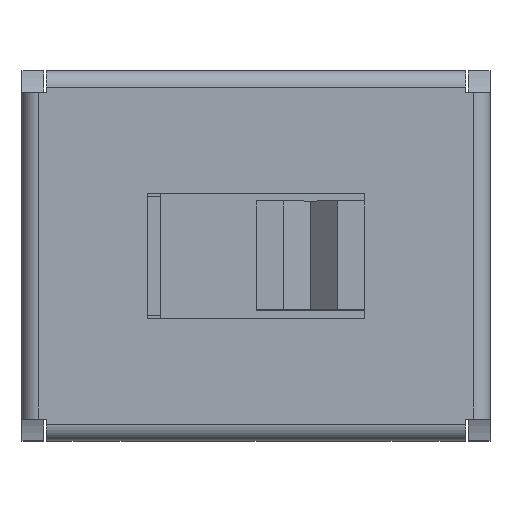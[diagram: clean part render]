
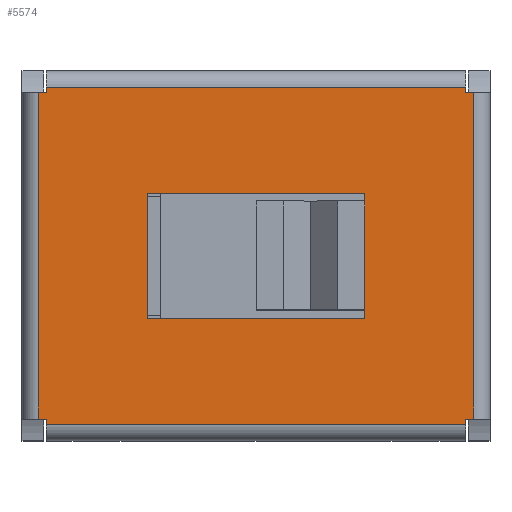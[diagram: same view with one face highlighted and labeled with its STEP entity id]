
A CAD part, top view. The second image highlights one B-rep face of the part: STEP entity #5574.
In plain terms, the highlighted planar face has unit normal (0, 0, 1).
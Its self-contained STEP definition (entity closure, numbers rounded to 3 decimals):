
#74=DIRECTION('',(0.,-1.,0.));
#75=VECTOR('',#74,6.);
#76=CARTESIAN_POINT('',(0.3,6.425,0.));
#77=LINE('',#76,#75);
#848=DIRECTION('',(0.,1.,0.));
#849=VECTOR('',#848,6.);
#850=CARTESIAN_POINT('',(8.3,0.425,0.));
#851=LINE('',#850,#849);
#1196=DIRECTION('',(1.,0.,0.));
#1197=VECTOR('',#1196,0.15);
#1198=CARTESIAN_POINT('',(0.3,6.425,0.));
#1199=LINE('',#1198,#1197);
#1200=DIRECTION('',(0.,1.,0.));
#1201=VECTOR('',#1200,0.1);
#1202=CARTESIAN_POINT('',(0.45,6.425,0.));
#1203=LINE('',#1202,#1201);
#1204=DIRECTION('',(0.,-1.,0.));
#1205=VECTOR('',#1204,0.1);
#1206=CARTESIAN_POINT('',(8.15,6.525,0.));
#1207=LINE('',#1206,#1205);
#1208=DIRECTION('',(1.,0.,0.));
#1209=VECTOR('',#1208,0.15);
#1210=CARTESIAN_POINT('',(8.15,6.425,0.));
#1211=LINE('',#1210,#1209);
#1212=DIRECTION('',(-1.,0.,0.));
#1213=VECTOR('',#1212,0.15);
#1214=CARTESIAN_POINT('',(8.3,0.425,0.));
#1215=LINE('',#1214,#1213);
#1216=DIRECTION('',(0.,-1.,0.));
#1217=VECTOR('',#1216,0.1);
#1218=CARTESIAN_POINT('',(8.15,0.425,0.));
#1219=LINE('',#1218,#1217);
#1220=DIRECTION('',(0.,1.,0.));
#1221=VECTOR('',#1220,0.1);
#1222=CARTESIAN_POINT('',(0.45,0.325,0.));
#1223=LINE('',#1222,#1221);
#1224=DIRECTION('',(-1.,0.,0.));
#1225=VECTOR('',#1224,0.15);
#1226=CARTESIAN_POINT('',(0.45,0.425,0.));
#1227=LINE('',#1226,#1225);
#1228=DIRECTION('',(0.,1.,0.));
#1229=VECTOR('',#1228,2.);
#1230=CARTESIAN_POINT('',(6.3,2.425,0.));
#1231=LINE('',#1230,#1229);
#1236=DIRECTION('',(-1.,0.,0.));
#1237=VECTOR('',#1236,7.7);
#1238=CARTESIAN_POINT('',(8.15,6.525,0.));
#1239=LINE('',#1238,#1237);
#1240=DIRECTION('',(1.,0.,0.));
#1241=VECTOR('',#1240,7.7);
#1242=CARTESIAN_POINT('',(0.45,0.325,0.));
#1243=LINE('',#1242,#1241);
#1252=DIRECTION('',(0.,-1.,0.));
#1253=VECTOR('',#1252,0.15);
#1254=CARTESIAN_POINT('',(6.3,4.575,0.));
#1255=LINE('',#1254,#1253);
#1276=DIRECTION('',(1.,0.,0.));
#1277=VECTOR('',#1276,4.);
#1278=CARTESIAN_POINT('',(2.3,4.575,0.));
#1279=LINE('',#1278,#1277);
#1288=DIRECTION('',(0.,1.,0.));
#1289=VECTOR('',#1288,2.3);
#1290=CARTESIAN_POINT('',(2.3,2.275,0.));
#1291=LINE('',#1290,#1289);
#1300=DIRECTION('',(-1.,0.,0.));
#1301=VECTOR('',#1300,4.);
#1302=CARTESIAN_POINT('',(6.3,2.275,0.));
#1303=LINE('',#1302,#1301);
#1308=DIRECTION('',(0.,-1.,0.));
#1309=VECTOR('',#1308,0.15);
#1310=CARTESIAN_POINT('',(6.3,2.425,0.));
#1311=LINE('',#1310,#1309);
#3096=CARTESIAN_POINT('',(0.3,0.425,0.));
#3098=VERTEX_POINT('',#3096);
#3099=CARTESIAN_POINT('',(0.45,0.425,0.));
#3100=VERTEX_POINT('',#3099);
#3107=CARTESIAN_POINT('',(0.3,6.425,0.));
#3108=VERTEX_POINT('',#3107);
#3171=CARTESIAN_POINT('',(0.45,6.425,0.));
#3172=VERTEX_POINT('',#3171);
#3177=CARTESIAN_POINT('',(0.45,6.525,0.));
#3178=VERTEX_POINT('',#3177);
#3565=CARTESIAN_POINT('',(2.3,4.575,0.));
#3566=VERTEX_POINT('',#3565);
#3567=CARTESIAN_POINT('',(6.3,4.575,0.));
#3568=VERTEX_POINT('',#3567);
#3569=CARTESIAN_POINT('',(2.3,2.275,0.));
#3570=VERTEX_POINT('',#3569);
#3571=CARTESIAN_POINT('',(6.3,2.275,0.));
#3572=VERTEX_POINT('',#3571);
#3573=CARTESIAN_POINT('',(6.3,2.425,0.));
#3574=VERTEX_POINT('',#3573);
#3575=CARTESIAN_POINT('',(6.3,4.425,0.));
#3576=VERTEX_POINT('',#3575);
#3597=CARTESIAN_POINT('',(8.15,6.525,0.));
#3598=VERTEX_POINT('',#3597);
#3599=CARTESIAN_POINT('',(8.15,6.425,0.));
#3600=VERTEX_POINT('',#3599);
#3601=CARTESIAN_POINT('',(8.3,6.425,0.));
#3602=VERTEX_POINT('',#3601);
#3603=CARTESIAN_POINT('',(8.3,0.425,0.));
#3604=VERTEX_POINT('',#3603);
#3605=CARTESIAN_POINT('',(8.15,0.425,0.));
#3606=VERTEX_POINT('',#3605);
#3607=CARTESIAN_POINT('',(8.15,0.325,0.));
#3608=VERTEX_POINT('',#3607);
#3609=CARTESIAN_POINT('',(0.45,0.325,0.));
#3610=VERTEX_POINT('',#3609);
#5539=CARTESIAN_POINT('',(4.3,3.425,0.));
#5540=DIRECTION('',(0.,0.,1.));
#5541=DIRECTION('',(1.,0.,0.));
#5542=AXIS2_PLACEMENT_3D('',#5539,#5540,#5541);
#5543=PLANE('',#5542);
#5544=ORIENTED_EDGE('',*,*,#4098,.F.);
#5545=ORIENTED_EDGE('',*,*,#4215,.T.);
#5546=ORIENTED_EDGE('',*,*,#4389,.T.);
#5548=ORIENTED_EDGE('',*,*,#5547,.F.);
#5549=ORIENTED_EDGE('',*,*,#5046,.T.);
#5550=ORIENTED_EDGE('',*,*,#5063,.T.);
#5551=ORIENTED_EDGE('',*,*,#5086,.F.);
#5552=ORIENTED_EDGE('',*,*,#5203,.T.);
#5553=ORIENTED_EDGE('',*,*,#5377,.T.);
#5555=ORIENTED_EDGE('',*,*,#5554,.F.);
#5556=ORIENTED_EDGE('',*,*,#5530,.T.);
#5557=ORIENTED_EDGE('',*,*,#4074,.T.);
#5558=EDGE_LOOP('',(#5544,#5545,#5546,#5548,#5549,#5550,#5551,#5552,#5553,#5555,
#5556,#5557));
#5559=FACE_OUTER_BOUND('',#5558,.F.);
#5561=ORIENTED_EDGE('',*,*,#5560,.F.);
#5563=ORIENTED_EDGE('',*,*,#5562,.F.);
#5565=ORIENTED_EDGE('',*,*,#5564,.F.);
#5567=ORIENTED_EDGE('',*,*,#5566,.F.);
#5569=ORIENTED_EDGE('',*,*,#5568,.F.);
#5571=ORIENTED_EDGE('',*,*,#5570,.T.);
#5572=EDGE_LOOP('',(#5561,#5563,#5565,#5567,#5569,#5571));
#5573=FACE_BOUND('',#5572,.F.);
#5574=ADVANCED_FACE('',(#5559,#5573),#5543,.T.);
#4074=EDGE_CURVE('',#3100,#3098,#1227,.T.);
#4098=EDGE_CURVE('',#3108,#3098,#77,.T.);
#4215=EDGE_CURVE('',#3108,#3172,#1199,.T.);
#4389=EDGE_CURVE('',#3172,#3178,#1203,.T.);
#5046=EDGE_CURVE('',#3598,#3600,#1207,.T.);
#5063=EDGE_CURVE('',#3600,#3602,#1211,.T.);
#5086=EDGE_CURVE('',#3604,#3602,#851,.T.);
#5203=EDGE_CURVE('',#3604,#3606,#1215,.T.);
#5377=EDGE_CURVE('',#3606,#3608,#1219,.T.);
#5530=EDGE_CURVE('',#3610,#3100,#1223,.T.);
#5547=EDGE_CURVE('',#3598,#3178,#1239,.T.);
#5554=EDGE_CURVE('',#3610,#3608,#1243,.T.);
#5560=EDGE_CURVE('',#3568,#3576,#1255,.T.);
#5562=EDGE_CURVE('',#3566,#3568,#1279,.T.);
#5564=EDGE_CURVE('',#3570,#3566,#1291,.T.);
#5566=EDGE_CURVE('',#3572,#3570,#1303,.T.);
#5568=EDGE_CURVE('',#3574,#3572,#1311,.T.);
#5570=EDGE_CURVE('',#3574,#3576,#1231,.T.);
